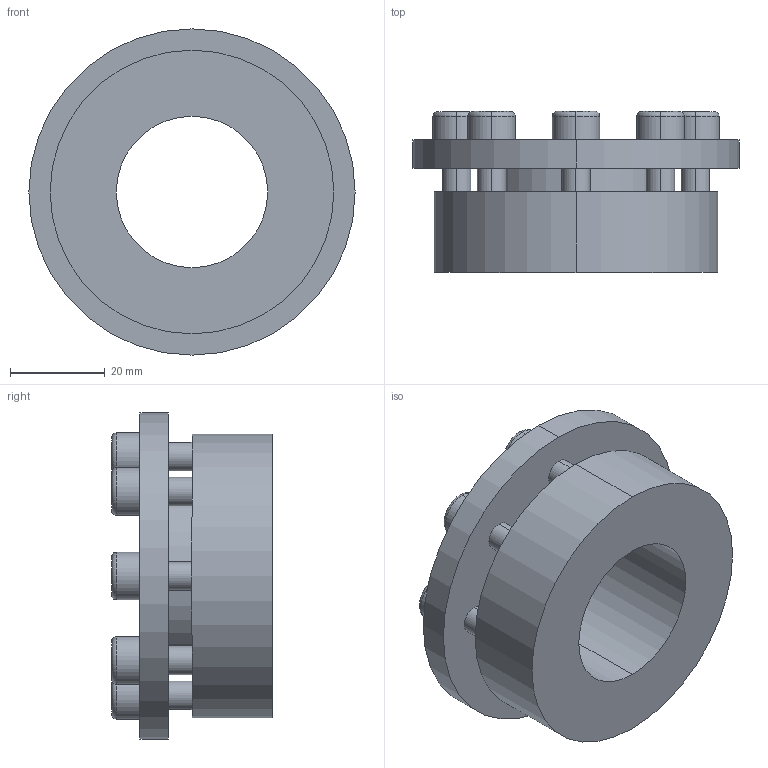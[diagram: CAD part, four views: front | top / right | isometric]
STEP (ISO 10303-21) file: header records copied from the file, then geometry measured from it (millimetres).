
FILE_DESCRIPTION (( 'STEP AP203' ), '1' );
FILE_NAME ('PL-H6 32-60.STEP', '2021-10-23T01:36:00', ( '' ), ( '' ), 'SwSTEP 2.0', 'SolidWorks 2018', '' );
FILE_SCHEMA (( 'CONFIG_CONTROL_DESIGN' ));
Length unit declared in the file: millimetre
Products named in the file (1): PL-H6 32-60
Bounding box: 69 x 34 x 69 mm (x, y, z)
Volume: 57864.7 mm3; surface area: 19328.6 mm2
Topology: 1 solids, 1 shells, 124 faces, 296 edges, 192 vertices
Faces by surface type: plane 68, cylinder 40, torus 16
Entity records: 3717 total; most frequent: DIRECTION 658, CARTESIAN_POINT 613, ORIENTED_EDGE 592, EDGE_CURVE 296, AXIS2_PLACEMENT_3D 237, VERTEX_POINT 192, VECTOR 184, LINE 184
